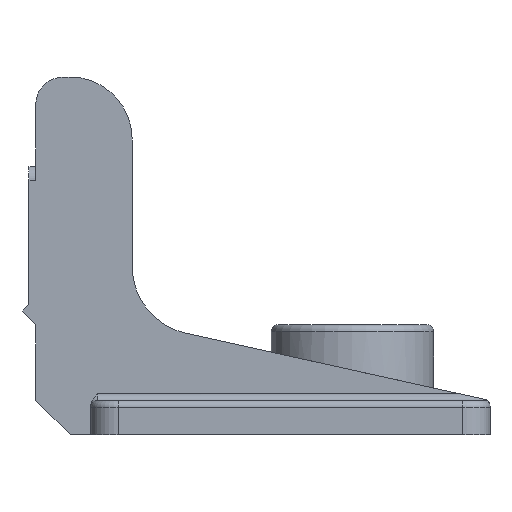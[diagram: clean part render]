
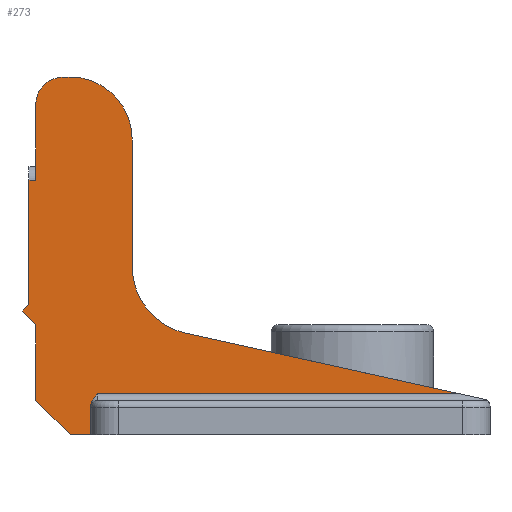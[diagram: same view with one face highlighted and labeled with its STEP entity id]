
A CAD part, left-side view. The second image highlights one B-rep face of the part: STEP entity #273.
In plain terms, the highlighted planar face has unit normal (-1, 0, 0).
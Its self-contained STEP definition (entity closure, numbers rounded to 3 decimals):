
#166=B_SPLINE_CURVE_WITH_KNOTS('',3,(#2514,#2515,#2516,#2517,#2518,#2519,
#2520,#2521,#2522,#2523,#2524,#2525,#2526),.UNSPECIFIED.,.F.,.F.,(4,3,3,
3,4),(0.,0.248,0.588,0.996,1.),.UNSPECIFIED.);
#203=CIRCLE('',#1647,5.);
#204=CIRCLE('',#1648,4.5);
#205=CIRCLE('',#1649,2.);
#273=ADVANCED_FACE('',(#395),#349,.F.);
#349=PLANE('',#1650);
#395=FACE_OUTER_BOUND('',#490,.T.);
#490=EDGE_LOOP('',(#705,#706,#707,#708,#709,#710,#711,#712,#713,#714,#715,
#716,#717,#718,#719,#720,#721,#722));
#705=ORIENTED_EDGE('',*,*,#1238,.F.);
#706=ORIENTED_EDGE('',*,*,#1239,.T.);
#707=ORIENTED_EDGE('',*,*,#1240,.T.);
#708=ORIENTED_EDGE('',*,*,#1241,.F.);
#709=ORIENTED_EDGE('',*,*,#1242,.F.);
#710=ORIENTED_EDGE('',*,*,#1243,.T.);
#711=ORIENTED_EDGE('',*,*,#1244,.F.);
#712=ORIENTED_EDGE('',*,*,#1245,.T.);
#713=ORIENTED_EDGE('',*,*,#1176,.F.);
#714=ORIENTED_EDGE('',*,*,#1246,.T.);
#715=ORIENTED_EDGE('',*,*,#1209,.F.);
#716=ORIENTED_EDGE('',*,*,#1247,.T.);
#717=ORIENTED_EDGE('',*,*,#1248,.F.);
#718=ORIENTED_EDGE('',*,*,#1249,.F.);
#719=ORIENTED_EDGE('',*,*,#1250,.F.);
#720=ORIENTED_EDGE('',*,*,#1114,.F.);
#721=ORIENTED_EDGE('',*,*,#1203,.F.);
#722=ORIENTED_EDGE('',*,*,#1158,.F.);
#972=VERTEX_POINT('',#2203);
#974=VERTEX_POINT('',#2207);
#1014=VERTEX_POINT('',#2334);
#1015=VERTEX_POINT('',#2336);
#1027=VERTEX_POINT('',#2366);
#1030=VERTEX_POINT('',#2371);
#1044=VERTEX_POINT('',#2405);
#1057=VERTEX_POINT('',#2443);
#1058=VERTEX_POINT('',#2445);
#1080=VERTEX_POINT('',#2513);
#1081=VERTEX_POINT('',#2527);
#1082=VERTEX_POINT('',#2529);
#1083=VERTEX_POINT('',#2532);
#1084=VERTEX_POINT('',#2534);
#1085=VERTEX_POINT('',#2536);
#1086=VERTEX_POINT('',#2540);
#1087=VERTEX_POINT('',#2542);
#1088=VERTEX_POINT('',#2544);
#1114=EDGE_CURVE('',#974,#972,#1327,.T.);
#1158=EDGE_CURVE('',#1014,#1015,#1359,.T.);
#1176=EDGE_CURVE('',#1030,#1027,#1372,.T.);
#1203=EDGE_CURVE('',#1015,#974,#1384,.T.);
#1209=EDGE_CURVE('',#1057,#1058,#1388,.T.);
#1238=EDGE_CURVE('',#1080,#1014,#1410,.T.);
#1239=EDGE_CURVE('',#1080,#1081,#166,.T.);
#1240=EDGE_CURVE('',#1081,#1082,#1411,.T.);
#1241=EDGE_CURVE('',#1044,#1082,#1412,.T.);
#1242=EDGE_CURVE('',#1083,#1044,#1413,.T.);
#1243=EDGE_CURVE('',#1083,#1084,#203,.T.);
#1244=EDGE_CURVE('',#1085,#1084,#1414,.T.);
#1245=EDGE_CURVE('',#1085,#1027,#204,.T.);
#1246=EDGE_CURVE('',#1030,#1058,#205,.T.);
#1247=EDGE_CURVE('',#1057,#1086,#1415,.T.);
#1248=EDGE_CURVE('',#1087,#1086,#1416,.T.);
#1249=EDGE_CURVE('',#1088,#1087,#1417,.T.);
#1250=EDGE_CURVE('',#972,#1088,#1418,.T.);
#1327=LINE('',#2208,#1454);
#1359=LINE('',#2335,#1486);
#1372=LINE('',#2372,#1499);
#1384=LINE('',#2432,#1511);
#1388=LINE('',#2444,#1515);
#1410=LINE('',#2512,#1537);
#1411=LINE('',#2528,#1538);
#1412=LINE('',#2530,#1539);
#1413=LINE('',#2531,#1540);
#1414=LINE('',#2535,#1541);
#1415=LINE('',#2539,#1542);
#1416=LINE('',#2541,#1543);
#1417=LINE('',#2543,#1544);
#1418=LINE('',#2545,#1545);
#1454=VECTOR('',#1748,1.);
#1486=VECTOR('',#1820,1.);
#1499=VECTOR('',#1849,1.);
#1511=VECTOR('',#1913,1.);
#1515=VECTOR('',#1923,1.);
#1537=VECTOR('',#1967,1.);
#1538=VECTOR('',#1968,1.);
#1539=VECTOR('',#1969,1.);
#1540=VECTOR('',#1970,1.);
#1541=VECTOR('',#1973,1.);
#1542=VECTOR('',#1978,1.);
#1543=VECTOR('',#1979,1.);
#1544=VECTOR('',#1980,1.);
#1545=VECTOR('',#1981,1.);
#1647=AXIS2_PLACEMENT_3D('',#2533,#1971,#1972);
#1648=AXIS2_PLACEMENT_3D('',#2537,#1974,#1975);
#1649=AXIS2_PLACEMENT_3D('',#2538,#1976,#1977);
#1650=AXIS2_PLACEMENT_3D('',#2546,#1982,#1983);
#1748=DIRECTION('',(0.,0.,1.));
#1820=DIRECTION('',(0.,1.,0.));
#1849=DIRECTION('',(0.,-1.,0.));
#1913=DIRECTION('',(0.,0.707,0.707));
#1923=DIRECTION('',(0.,0.,1.));
#1967=DIRECTION('',(0.,0.,-1.));
#1968=DIRECTION('',(0.,-1.,0.));
#1969=DIRECTION('',(0.,-0.976,-0.216));
#1970=DIRECTION('',(0.,-0.976,-0.216));
#1971=DIRECTION('',(1.,0.,0.));
#1972=DIRECTION('',(0.,0.,-1.));
#1973=DIRECTION('',(0.,0.,-1.));
#1974=DIRECTION('',(-1.,0.,0.));
#1975=DIRECTION('',(0.,0.,-1.));
#1976=DIRECTION('',(-1.,0.,0.));
#1977=DIRECTION('',(0.,0.,-1.));
#1978=DIRECTION('',(0.,1.,0.));
#1979=DIRECTION('',(0.,0.,1.));
#1980=DIRECTION('',(0.,-0.707,0.707));
#1981=DIRECTION('',(0.,0.707,0.707));
#1982=DIRECTION('',(1.,0.,0.));
#1983=DIRECTION('',(0.,0.,-1.));
#2203=CARTESIAN_POINT('',(4.1,33.,8.));
#2207=CARTESIAN_POINT('',(4.1,33.,2.5));
#2208=CARTESIAN_POINT('',(4.1,33.,2.5));
#2334=CARTESIAN_POINT('',(4.1,29.,0.));
#2335=CARTESIAN_POINT('',(4.1,29.,0.));
#2336=CARTESIAN_POINT('',(4.1,30.5,0.));
#2366=CARTESIAN_POINT('',(4.1,30.5,26.));
#2371=CARTESIAN_POINT('',(4.1,31.,26.));
#2372=CARTESIAN_POINT('',(4.1,33.,26.));
#2405=CARTESIAN_POINT('',(4.1,10.,4.712));
#2432=CARTESIAN_POINT('',(4.1,30.5,0.));
#2443=CARTESIAN_POINT('',(4.1,33.,18.5));
#2444=CARTESIAN_POINT('',(4.1,33.,2.5));
#2445=CARTESIAN_POINT('',(4.1,33.,24.));
#2512=CARTESIAN_POINT('',(4.1,29.,2.5));
#2513=CARTESIAN_POINT('',(4.1,29.,2.134));
#2514=CARTESIAN_POINT('',(4.1,29.,2.134));
#2515=CARTESIAN_POINT('',(4.1,29.,2.219));
#2516=CARTESIAN_POINT('',(4.1,28.983,2.304));
#2517=CARTESIAN_POINT('',(4.1,28.955,2.384));
#2518=CARTESIAN_POINT('',(4.1,28.917,2.493));
#2519=CARTESIAN_POINT('',(4.1,28.856,2.595));
#2520=CARTESIAN_POINT('',(4.1,28.786,2.687));
#2521=CARTESIAN_POINT('',(4.1,28.701,2.798));
#2522=CARTESIAN_POINT('',(4.1,28.602,2.898));
#2523=CARTESIAN_POINT('',(4.1,28.503,2.997));
#2524=CARTESIAN_POINT('',(4.1,28.502,2.998));
#2525=CARTESIAN_POINT('',(4.1,28.501,2.999));
#2526=CARTESIAN_POINT('',(4.1,28.5,3.));
#2527=CARTESIAN_POINT('',(4.1,28.5,3.));
#2528=CARTESIAN_POINT('',(4.1,27.5,3.));
#2529=CARTESIAN_POINT('',(4.1,2.261,3.));
#2530=CARTESIAN_POINT('',(4.1,26.,8.25));
#2531=CARTESIAN_POINT('',(4.1,26.,8.25));
#2532=CARTESIAN_POINT('',(4.1,22.08,7.383));
#2533=CARTESIAN_POINT('',(4.1,21.,12.265));
#2534=CARTESIAN_POINT('',(4.1,26.,12.265));
#2535=CARTESIAN_POINT('',(4.1,26.,26.));
#2536=CARTESIAN_POINT('',(4.1,26.,21.5));
#2537=CARTESIAN_POINT('',(4.1,30.5,21.5));
#2538=CARTESIAN_POINT('',(4.1,31.,24.));
#2539=CARTESIAN_POINT('',(4.1,33.5,18.5));
#2540=CARTESIAN_POINT('',(4.1,33.5,18.5));
#2541=CARTESIAN_POINT('',(4.1,33.5,9.5));
#2542=CARTESIAN_POINT('',(4.1,33.5,9.5));
#2543=CARTESIAN_POINT('',(4.1,34.,9.));
#2544=CARTESIAN_POINT('',(4.1,34.,9.));
#2545=CARTESIAN_POINT('',(4.1,33.,8.));
#2546=CARTESIAN_POINT('',(4.1,27.5,5.489));
